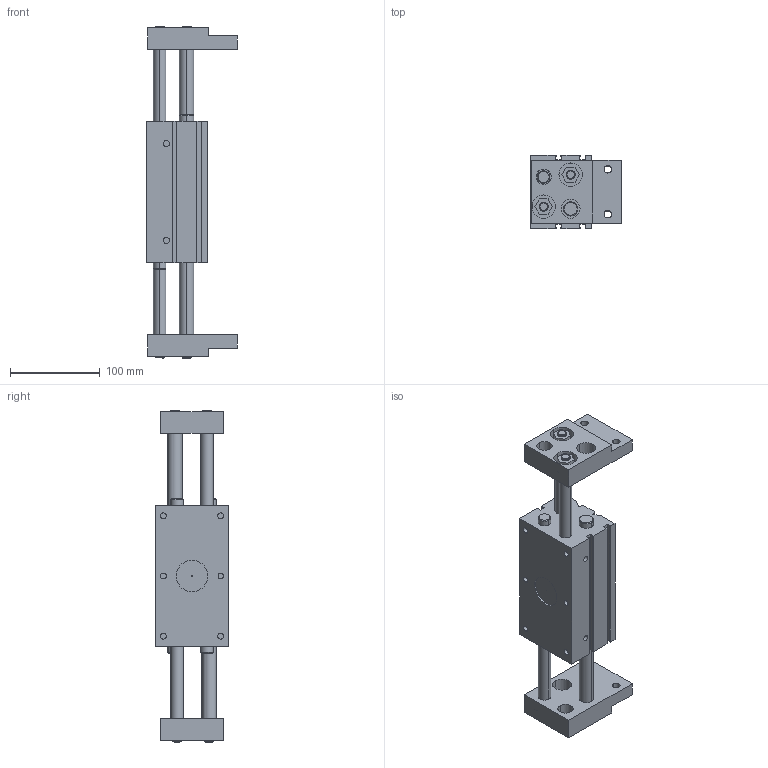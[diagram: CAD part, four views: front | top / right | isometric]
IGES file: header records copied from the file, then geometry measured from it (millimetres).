
Global section: file name: No Iges File Name specified; native system: Autodesk Inventor 2011; preprocessor: AutoDesk Inventor Iges Exporter R2011; author: airolcr1; date: 20110614.103307; units: millimetre
Bounding box: 101 x 82 x 370 mm (x, y, z)
Volume: 1160003.1 mm3; surface area: 199248.4 mm2
Topology: 3 solids, 3 shells, 203 faces, 494 edges, 322 vertices
Faces by surface type: plane 101, bspline 56, cylinder 16, cone 16, revolution 14
